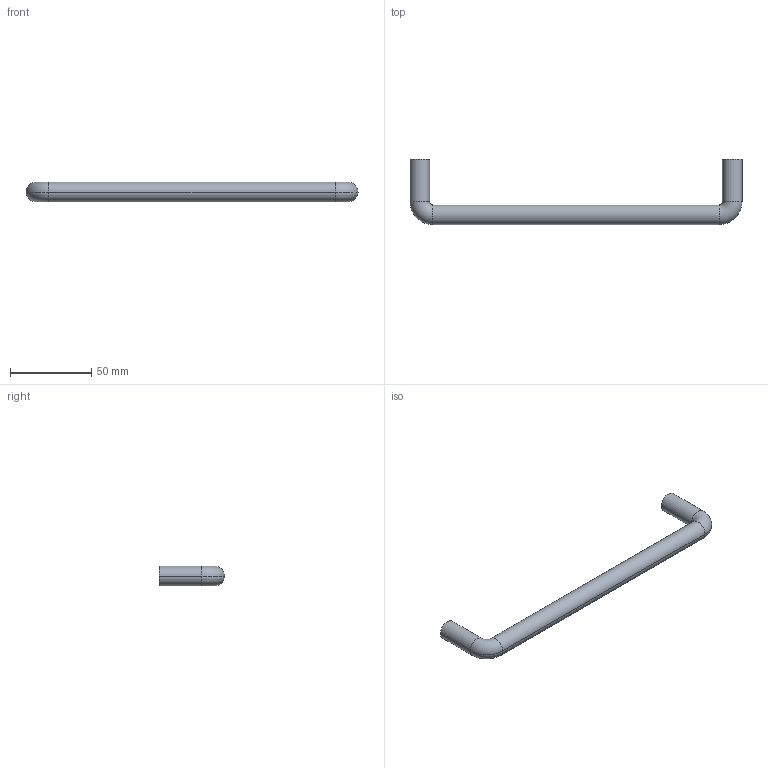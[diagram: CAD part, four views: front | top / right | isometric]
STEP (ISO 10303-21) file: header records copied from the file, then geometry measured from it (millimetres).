
FILE_DESCRIPTION( ( '' ), '1' );
FILE_NAME( 'C:/Documents and Settings/Sachin/Desktop/Sheet 10_1/stp/9070105.stp', '2013-10-22T07:25:39', ( '' ), ( '' ), ' ', ' ', ' ' );
FILE_SCHEMA( ( 'CONFIG_CONTROL_DESIGN' ) );
Length unit declared in the file: millimetre
Products named in the file (1): 1
Bounding box: 204 x 40 x 12 mm (x, y, z)
Volume: 28377.3 mm3; surface area: 10020.4 mm2
Topology: 1 solids, 1 shells, 18 faces, 34 edges, 20 vertices
Faces by surface type: cylinder 10, torus 4, plane 4
Entity records: 502 total; most frequent: DIRECTION 96, CARTESIAN_POINT 73, ORIENTED_EDGE 68, AXIS2_PLACEMENT_3D 43, EDGE_CURVE 34, CIRCLE 24, EDGE_LOOP 20, VERTEX_POINT 20
